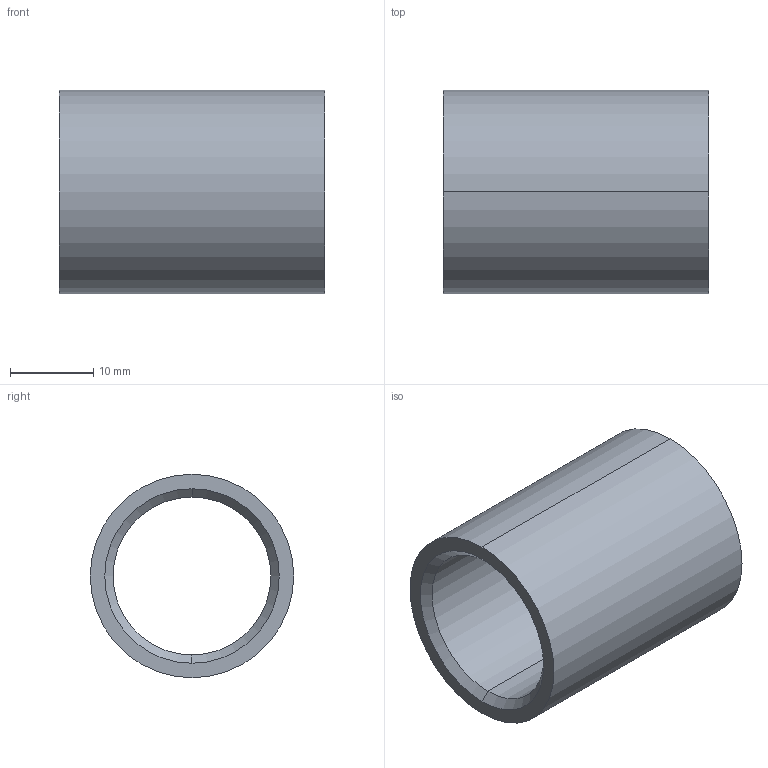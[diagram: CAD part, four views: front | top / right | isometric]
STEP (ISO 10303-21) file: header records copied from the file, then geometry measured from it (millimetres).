
FILE_DESCRIPTION (( 'STEP AP203' ), '1' );
FILE_NAME ('Wiberger-wn8625-a4-1-2tum.step', '2025-03-11T09:13:20', ( '' ), ( '' ), 'SwSTEP 2.0', 'SolidWorks 2023', '' );
FILE_SCHEMA (( 'CONFIG_CONTROL_DESIGN' ));
Length unit declared in the file: millimetre
Products named in the file (1): Wiberger-wn8625-a4-1-2tum
Bounding box: 32 x 24.5 x 24.5 mm (x, y, z)
Volume: 5951.2 mm3; surface area: 4681.6 mm2
Topology: 1 solids, 1 shells, 10 faces, 20 edges, 12 vertices
Faces by surface type: cone 4, cylinder 4, plane 2
Entity records: 345 total; most frequent: DIRECTION 54, CARTESIAN_POINT 43, ORIENTED_EDGE 40, AXIS2_PLACEMENT_3D 23, EDGE_CURVE 20, CIRCLE 12, VERTEX_POINT 12, EDGE_LOOP 12
